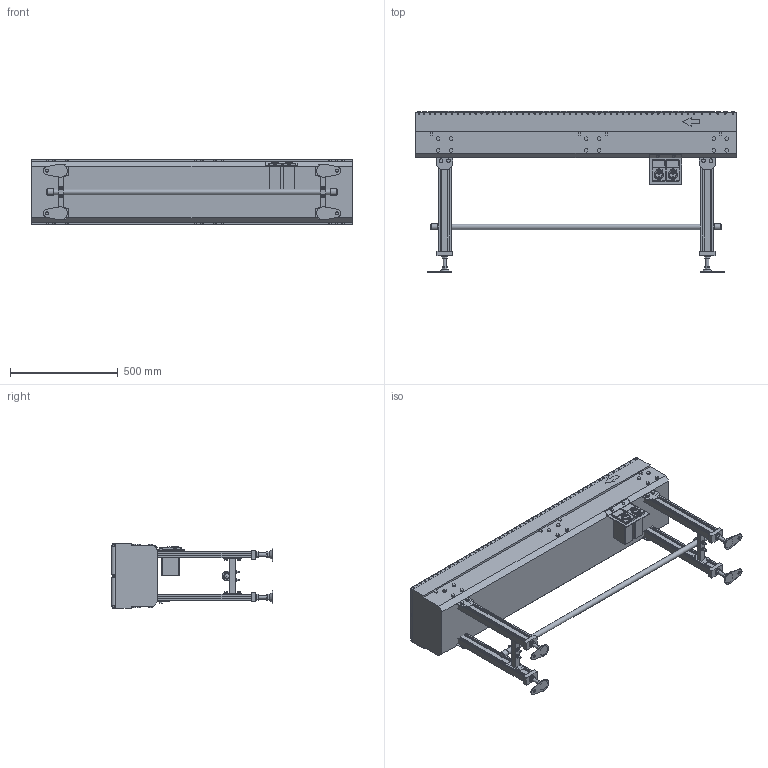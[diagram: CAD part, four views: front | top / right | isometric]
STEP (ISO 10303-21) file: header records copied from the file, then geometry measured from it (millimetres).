
FILE_DESCRIPTION (( 'STEP AP214' ), '1' );
FILE_NAME ('GA22-304x2-200-150-DC-7.5.STEP', '2024-08-08T23:12:45', ( '' ), ( '' ), 'SwSTEP 2.0', 'SolidWorks 2017', '' );
FILE_SCHEMA (( 'AUTOMOTIVE_DESIGN' ));
Length unit declared in the file: millimetre
Products named in the file (1): GA22-304x2-200-150-DC-7.5
Bounding box: 1490 x 750 x 304.71 mm (x, y, z)
Volume: 95231277.9 mm3; surface area: 3824967.7 mm2
Topology: 19 solids, 19 shells, 2511 faces, 6276 edges, 4162 vertices
Faces by surface type: plane 1754, cylinder 723, cone 18, torus 16
Full cylindrical faces by diameter (mm): 4.5 x8, 6 x106, 7 x4, 8 x212, 8.723 x8, 12.2 x2, 13 x4, 15.4 x40, 16 x8, 17 x12, 25.4 x1, 28.4 x2, 29.825 x2, 30 x4
Entity records: 71037 total; most frequent: CARTESIAN_POINT 14299, DIRECTION 11391, ORIENTED_EDGE 11194, EDGE_CURVE 5597, VERTEX_POINT 3922, AXIS2_PLACEMENT_3D 3812, VECTOR 3767, LINE 3767
